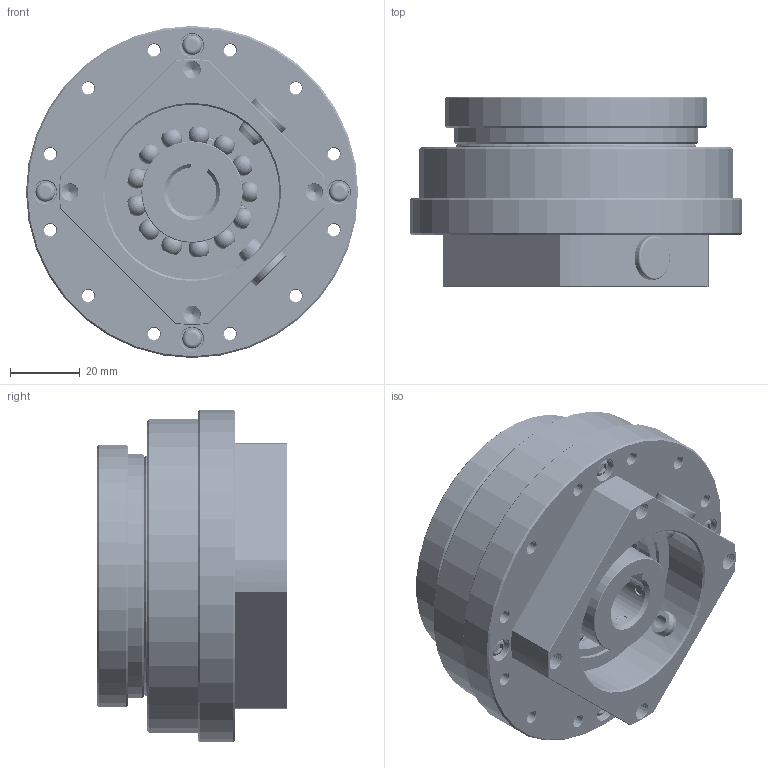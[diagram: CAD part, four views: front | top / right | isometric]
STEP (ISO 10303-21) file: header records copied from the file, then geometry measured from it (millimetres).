
FILE_DESCRIPTION (( 'STEP AP203' ), '1' );
FILE_NAME ('FA20.STEP', '2026-03-08T13:36:59', ( '' ), ( '' ), 'SwSTEP 2.0', 'SolidWorks 2022', '' );
FILE_SCHEMA (( 'CONFIG_CONTROL_DESIGN' ));
Length unit declared in the file: millimetre
Products named in the file (59): FA20.sldasm-Part-19; FA20.sldasm-Part-49; FA20.sldasm-Part-42; FA20.sldasm-Part-6; FA20.sldasm-Part-53; FA20.sldasm-Part-43; FA20.sldasm-Part-11; FA20; FA20.sldasm-Part-48; FA20.sldasm-Part-58; FA20.sldasm-Part-24; FA20.sldasm-Part-12; FA20.sldasm-Part-18; FA20.sldasm-Part-52; FA20.sldasm-Part-54; FA20.sldasm-Part-45; FA20.sldasm-Part-8; FA20.sldasm-Part-14; FA20.sldasm-Part-57; FA20.sldasm-Part-16; FA20.sldasm-Part-26; FA20.sldasm-Part-5; FA20.sldasm-Part-50; FA20.sldasm-Part-4; FA20.sldasm-Part-7; FA20.sldasm-Part-29; FA20.sldasm-Part-30; FA20.sldasm-Part-25; FA20.sldasm-Part-37; FA20.sldasm-Part-38; FA20.sldasm-Part-39; FA20.sldasm-Part-36; FA20.sldasm-Part-27; FA20.sldasm-Part-41; FA20.sldasm-Part-44; FA20.sldasm-Part-23; FA20.sldasm-Part-33; FA20.sldasm-Part-17; FA20.sldasm-Part-56; FA20.sldasm-Part-34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
Assembly tree (73 placements, depth 2):
  FA20
    FA20.sldasm-Part-1  x2
    FA20.sldasm-Part-2
    FA20.sldasm-Part-3
    FA20.sldasm-Part-4
    FA20.sldasm-Part-5
    FA20.sldasm-Part-6
    FA20.sldasm-Part-7
    FA20.sldasm-Part-8
    FA20.sldasm-Part-9
    FA20.sldasm-Part-10
    FA20.sldasm-Part-11
    FA20.sldasm-Part-12
    FA20.sldasm-Part-13
    FA20.sldasm-Part-14
    FA20.sldasm-Part-15
    FA20.sldasm-Part-16
    FA20.sldasm-Part-17
    FA20.sldasm-Part-18
    FA20.sldasm-Part-19
    FA20.sldasm-Part-20
    FA20.sldasm-Part-21
    FA20.sldasm-Part-22
    FA20.sldasm-Part-23
    FA20.sldasm-Part-24
    FA20.sldasm-Part-25
    FA20.sldasm-Part-26
    FA20.sldasm-Part-27
    FA20.sldasm-Part-28
    FA20.sldasm-Part-29
    FA20.sldasm-Part-30
    FA20.sldasm-Part-31  x4
    FA20.sldasm-Part-32
    FA20.sldasm-Part-33
    FA20.sldasm-Part-34
    FA20.sldasm-Part-35
    FA20.sldasm-Part-36
    FA20.sldasm-Part-37
    FA20.sldasm-Part-38
    FA20.sldasm-Part-39
    FA20.sldasm-Part-40
    FA20.sldasm-Part-41
    FA20.sldasm-Part-42
    FA20.sldasm-Part-43
    FA20.sldasm-Part-44
    FA20.sldasm-Part-45
    FA20.sldasm-Part-46
    FA20.sldasm-Part-47  x8
    FA20.sldasm-Part-48  x2
    FA20.sldasm-Part-49
    FA20.sldasm-Part-50
    FA20.sldasm-Part-51
    FA20.sldasm-Part-52
    FA20.sldasm-Part-53
    FA20.sldasm-Part-54
    FA20.sldasm-Part-55
    FA20.sldasm-Part-56
    FA20.sldasm-Part-57
    FA20.sldasm-Part-58  x4
Bounding box: 95 x 54.5 x 95 mm (x, y, z)
Volume: 192704.3 mm3; surface area: 140731.5 mm2
Topology: 73 solids, 73 shells, 4378 faces, 11969 edges, 7781 vertices
Faces by surface type: cylinder 3044, cone 539, plane 509, bspline 156, sphere 68, torus 62
Entity records: 189842 total; most frequent: CARTESIAN_POINT 112977, ORIENTED_EDGE 16072, DIRECTION 12236, EDGE_CURVE 8036, VERTEX_POINT 5199, AXIS2_PLACEMENT_3D 4668, B_SPLINE_CURVE_WITH_KNOTS 3478, EDGE_LOOP 3395
